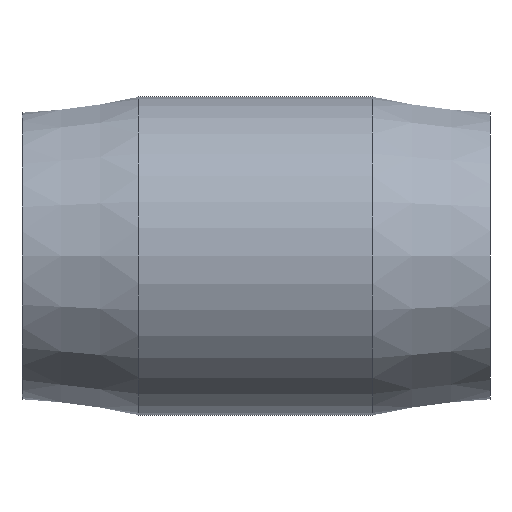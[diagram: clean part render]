
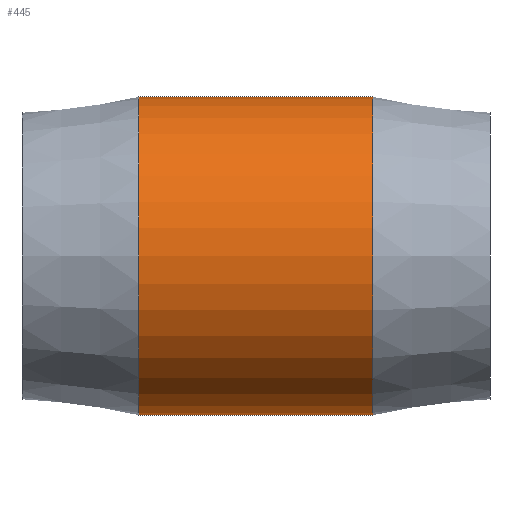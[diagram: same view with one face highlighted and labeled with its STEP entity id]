
A CAD part, front view. The second image highlights one B-rep face of the part: STEP entity #445.
In plain terms, the highlighted cylindrical face has radius 34.036 mm (diameter 68.072 mm), a full revolution.
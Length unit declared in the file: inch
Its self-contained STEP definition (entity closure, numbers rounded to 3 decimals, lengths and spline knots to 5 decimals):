
#43=LINE('',#830,#59);
#59=VECTOR('',#609,1.34);
#73=CYLINDRICAL_SURFACE('',#503,1.34);
#91=FACE_OUTER_BOUND('',#123,.T.);
#123=EDGE_LOOP('',(#333,#334,#335,#336,#337,#338));
#157=CIRCLE('',#504,1.34);
#158=CIRCLE('',#505,1.34);
#159=CIRCLE('',#506,1.34);
#160=CIRCLE('',#507,1.34);
#203=VERTEX_POINT('',#825);
#204=VERTEX_POINT('',#826);
#205=VERTEX_POINT('',#829);
#206=VERTEX_POINT('',#831);
#255=EDGE_CURVE('',#203,#204,#157,.T.);
#256=EDGE_CURVE('',#204,#203,#158,.T.);
#257=EDGE_CURVE('',#204,#205,#43,.T.);
#258=EDGE_CURVE('',#205,#206,#159,.T.);
#259=EDGE_CURVE('',#206,#205,#160,.T.);
#333=ORIENTED_EDGE('',*,*,#255,.F.);
#334=ORIENTED_EDGE('',*,*,#256,.F.);
#335=ORIENTED_EDGE('',*,*,#257,.T.);
#336=ORIENTED_EDGE('',*,*,#258,.T.);
#337=ORIENTED_EDGE('',*,*,#259,.T.);
#338=ORIENTED_EDGE('',*,*,#257,.F.);
#445=ADVANCED_FACE('',(#91),#73,.T.);
#503=AXIS2_PLACEMENT_3D('',#824,#603,#604);
#504=AXIS2_PLACEMENT_3D('',#827,#605,#606);
#505=AXIS2_PLACEMENT_3D('',#828,#607,#608);
#506=AXIS2_PLACEMENT_3D('',#832,#610,#611);
#507=AXIS2_PLACEMENT_3D('',#833,#612,#613);
#603=DIRECTION('center_axis',(1.,0.,0.));
#604=DIRECTION('ref_axis',(0.,1.,0.));
#605=DIRECTION('center_axis',(1.,0.,0.));
#606=DIRECTION('ref_axis',(0.,0.,-1.));
#607=DIRECTION('center_axis',(1.,0.,0.));
#608=DIRECTION('ref_axis',(0.,0.,-1.));
#609=DIRECTION('',(-1.,0.,0.));
#610=DIRECTION('center_axis',(1.,0.,0.));
#611=DIRECTION('ref_axis',(0.,0.,-1.));
#612=DIRECTION('center_axis',(1.,0.,0.));
#613=DIRECTION('ref_axis',(0.,0.,-1.));
#824=CARTESIAN_POINT('Origin',(0.,0.,0.));
#825=CARTESIAN_POINT('',(0.985,1.34,0.));
#826=CARTESIAN_POINT('',(0.985,-1.34,0.));
#827=CARTESIAN_POINT('Origin',(0.985,0.,0.));
#828=CARTESIAN_POINT('Origin',(0.985,0.,0.));
#829=CARTESIAN_POINT('',(-0.985,-1.34,0.));
#830=CARTESIAN_POINT('',(0.,-1.34,0.));
#831=CARTESIAN_POINT('',(-0.985,1.34,0.));
#832=CARTESIAN_POINT('Origin',(-0.985,0.,0.));
#833=CARTESIAN_POINT('Origin',(-0.985,0.,0.));
